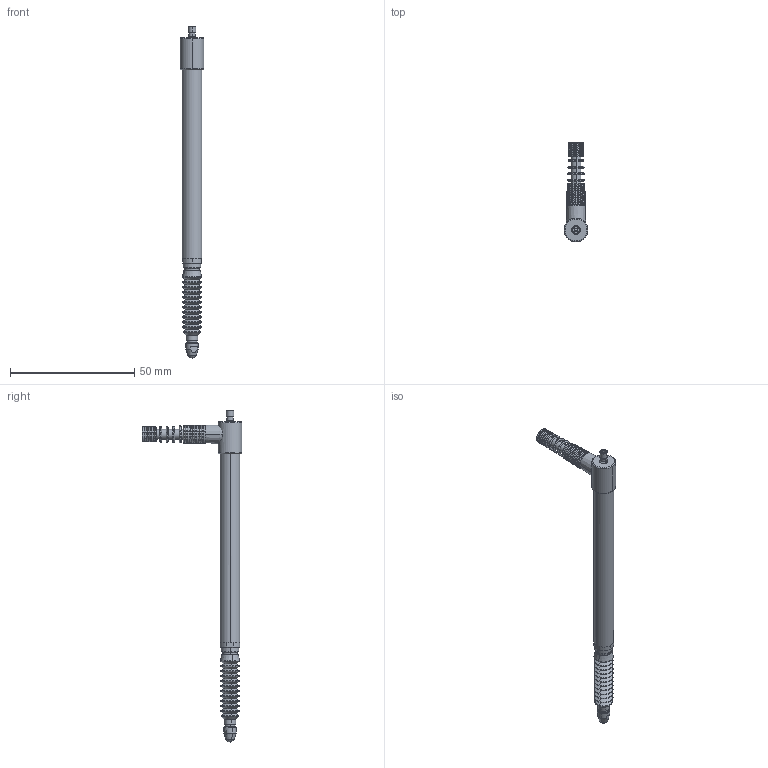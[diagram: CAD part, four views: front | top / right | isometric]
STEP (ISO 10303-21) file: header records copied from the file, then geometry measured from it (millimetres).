
FILE_DESCRIPTION (( 'STEP AP214' ), '1' );
FILE_NAME ('DP-15V_exterior.STEP', '2015-10-07T05:40:56', ( 'ysgoodman' ), ( '' ), 'SwSTEP 2.0', 'SolidWorks 2014', '' );
FILE_SCHEMA (( 'AUTOMOTIVE_DESIGN' ));
Length unit declared in the file: millimetre
Products named in the file (1): DP-15V_exterior
Bounding box: 9.6 x 40.2 x 133.61 mm (x, y, z)
Surface area: 5227.2 mm2 (no closed solid volume)
Topology: 0 solids, 34 shells, 249 faces, 543 edges, 304 vertices
Faces by surface type: torus 144, cone 59, cylinder 27, plane 17, sphere 2
Entity records: 9694 total; most frequent: DIRECTION 1451, CARTESIAN_POINT 1247, ORIENTED_EDGE 1026, AXIS2_PLACEMENT_3D 675, EDGE_CURVE 538, CIRCLE 425, VERTEX_POINT 301, EDGE_LOOP 260
